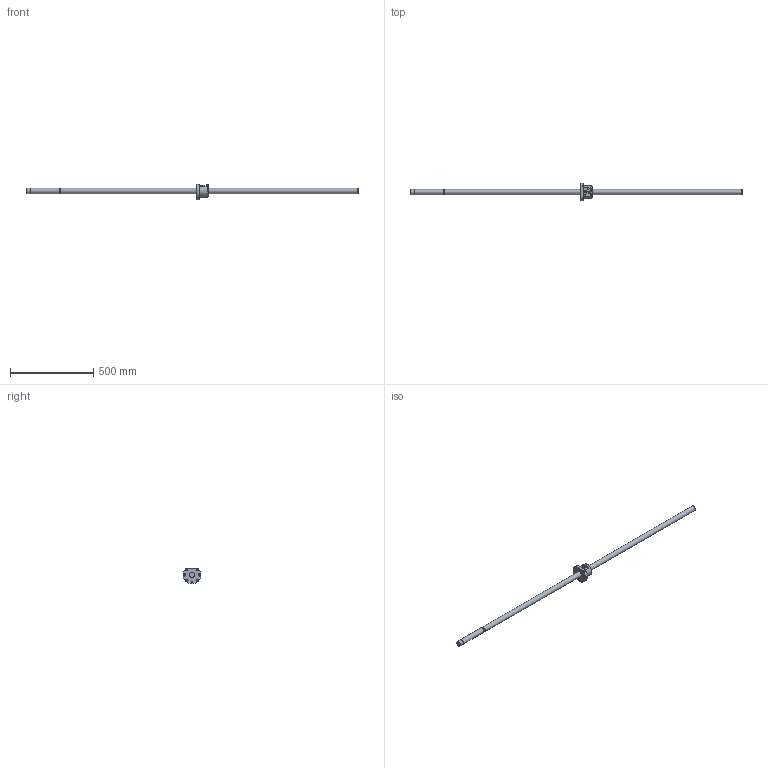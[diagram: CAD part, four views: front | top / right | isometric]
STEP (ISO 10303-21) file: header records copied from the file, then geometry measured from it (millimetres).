
FILE_DESCRIPTION((''),'2;1');
FILE_NAME('D:\製品 (図面)\カタログ用3D\ネジ関連\STEP形式\KBS(C)\KBS(C)3210-2000.stp','2010-06-02T14:32:57',('Tsuchiya'),(''),'Autodesk Inventor 10','Autodesk Inventor 10','');
FILE_SCHEMA(('AUTOMOTIVE_DESIGN { 1 0 10303 214 1 1 1 1 }'));
Length unit declared in the file: millimetre
Products named in the file (3): KBS(C)3210-2000; KBS(C)3210-20001; KBS(C)3210-20002
Assembly tree (2 placements, depth 2):
  KBS(C)3210-2000
    KBS(C)3210-20001
    KBS(C)3210-20002
Bounding box: 2000 x 108 x 95 mm (x, y, z)
Volume: 1882665.5 mm3; surface area: 247206.1 mm2
Topology: 2 solids, 2 shells, 95 faces, 231 edges, 152 vertices
Faces by surface type: plane 41, cylinder 32, bspline 16, cone 4, torus 2
Full cylindrical faces by diameter (mm): 6 x1, 6.4 x1, 7.4 x1, 9 x6, 14 x6, 27.2 x1, 31.5 x1, 32 x3, 34 x2, 74 x1
Entity records: 2871 total; most frequent: CARTESIAN_POINT 734, DIRECTION 408, ORIENTED_EDGE 380, EDGE_CURVE 190, EDGE_LOOP 160, AXIS2_PLACEMENT_3D 158, VERTEX_POINT 144, FACE_OUTER_BOUND 95
